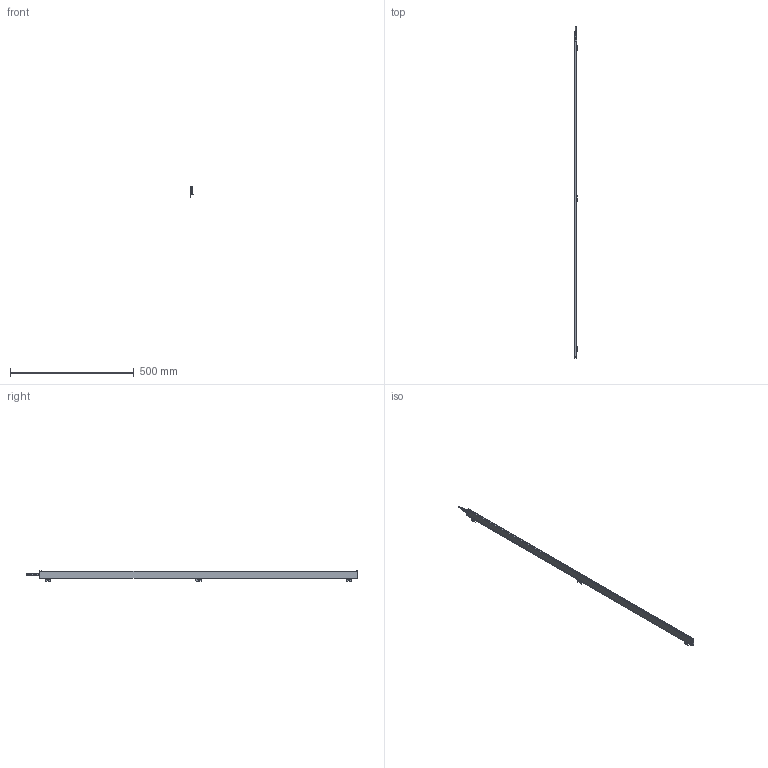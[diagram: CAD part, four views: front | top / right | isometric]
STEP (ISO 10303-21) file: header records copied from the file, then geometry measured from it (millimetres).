
FILE_DESCRIPTION (( 'STEP AP214' ), '1' );
FILE_NAME ('ILG-N-K2-1290mm.STEP', '2017-07-10T13:56:41', ( '' ), ( '' ), 'SwSTEP 2.0', 'SolidWorks 2016', '' );
FILE_SCHEMA (( 'AUTOMOTIVE_DESIGN' ));
Length unit declared in the file: millimetre
Products named in the file (1): ILG-N-K2-1290mm
Bounding box: 10.23 x 1343.5 x 42.41 mm (x, y, z)
Surface area: 219339.2 mm2 (no closed solid volume)
Topology: 0 solids, 16 shells, 781 faces, 2020 edges, 1269 vertices
Faces by surface type: plane 346, cylinder 297, cone 90, bspline 32, torus 16
Entity records: 34483 total; most frequent: CARTESIAN_POINT 6956, ORIENTED_EDGE 3993, DIRECTION 3858, EDGE_CURVE 2004, AXIS2_PLACEMENT_3D 1419, VERTEX_POINT 1269, LINE 1020, VECTOR 1020
